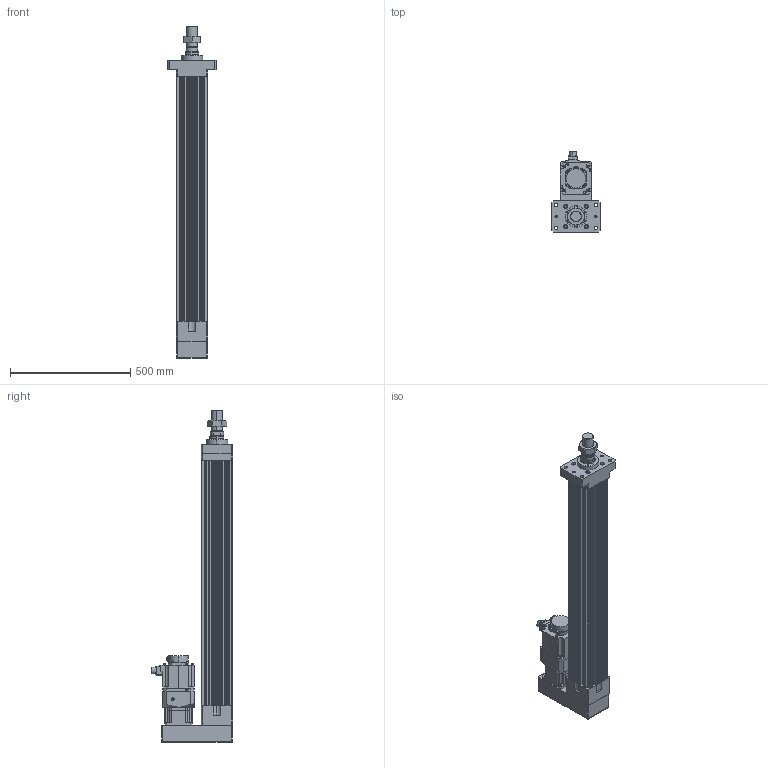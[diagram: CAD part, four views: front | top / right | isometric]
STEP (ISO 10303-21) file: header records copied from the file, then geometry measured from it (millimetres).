
FILE_DESCRIPTION (( 'STEP AP203' ), '1' );
FILE_NAME ('HES130NS(FS)(HS)-P800-W015G00-M-FMA.STEP', '2023-01-29T05:04:51', ( 'tms' ), ( '' ), 'SwSTEP 2.0', 'SolidWorks 2013', '' );
FILE_SCHEMA (( 'CONFIG_CONTROL_DESIGN' ));
Length unit declared in the file: millimetre
Products named in the file (8): M45X1.5P; HES130NS(FS)(HS)-P800-W015G00-M-FMA; HES130 ROD M ST800; HES130-P800-G120-FMA; P0401400706; HG-SR152; AB115-003[HG-SR152]; AB1151
Assembly tree (7 placements, depth 3):
  HES130NS(FS)(HS)-P800-W015G00-M-FMA
    HES130-P800-G120-FMA
    HES130 ROD M ST800
    M45X1.5P
    AB115-003[HG-SR152]
      AB1151
      P0401400706
    HG-SR152
Bounding box: 200 x 337.49 x 1382 mm (x, y, z)
Volume: 14855409.3 mm3; surface area: 1856136.1 mm2
Topology: 4 solids, 11 shells, 1082 faces, 2768 edges, 1799 vertices
Faces by surface type: cylinder 513, plane 489, cone 68, bspline 8, torus 4
Entity records: 34626 total; most frequent: CARTESIAN_POINT 6632, DIRECTION 5993, ORIENTED_EDGE 5484, EDGE_CURVE 2752, AXIS2_PLACEMENT_3D 2228, VERTEX_POINT 1799, VECTOR 1537, LINE 1537
